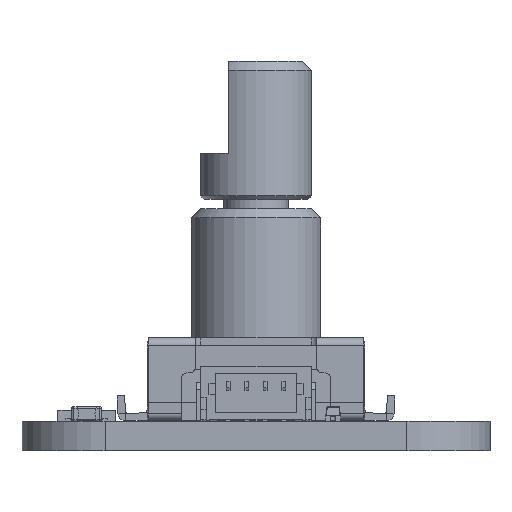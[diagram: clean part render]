
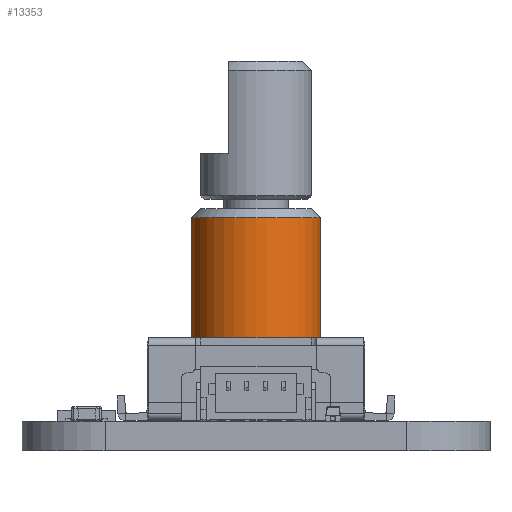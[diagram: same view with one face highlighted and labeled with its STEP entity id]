
A CAD part, left-side view. The second image highlights one B-rep face of the part: STEP entity #13353.
In plain terms, the highlighted cylindrical face has radius 3.5 mm (diameter 7 mm), a partial arc.
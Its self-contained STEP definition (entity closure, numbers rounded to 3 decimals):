
#13082 = VERTEX_POINT('',#13083);
#13083 = CARTESIAN_POINT('',(3.5,1.7,0.));
#13084 = VERTEX_POINT('',#13085);
#13085 = CARTESIAN_POINT('',(-3.5,1.7,0.));
#13092 = EDGE_CURVE('',#13084,#13082,#13093,.T.);
#13093 = CIRCLE('',#13094,3.5);
#13094 = AXIS2_PLACEMENT_3D('',#13095,#13096,#13097);
#13095 = CARTESIAN_POINT('',(0.,1.7,0.));
#13096 = DIRECTION('',(0.,1.,0.));
#13097 = DIRECTION('',(-1.,0.,0.));
#13182 = EDGE_CURVE('',#13183,#13082,#13185,.T.);
#13183 = VERTEX_POINT('',#13184);
#13184 = CARTESIAN_POINT('',(3.5,8.2,0.));
#13185 = LINE('',#13186,#13187);
#13186 = CARTESIAN_POINT('',(3.5,8.2,0.));
#13187 = VECTOR('',#13188,1.);
#13188 = DIRECTION('',(0.,-1.,0.));
#13191 = EDGE_CURVE('',#13192,#13084,#13194,.T.);
#13192 = VERTEX_POINT('',#13193);
#13193 = CARTESIAN_POINT('',(-3.5,8.2,0.));
#13194 = LINE('',#13195,#13196);
#13195 = CARTESIAN_POINT('',(-3.5,8.2,0.));
#13196 = VECTOR('',#13197,1.);
#13197 = DIRECTION('',(0.,-1.,0.));
#13330 = EDGE_CURVE('',#13331,#13192,#13333,.T.);
#13331 = VERTEX_POINT('',#13332);
#13332 = CARTESIAN_POINT('',(0.,8.2,3.5));
#13333 = CIRCLE('',#13334,3.5);
#13334 = AXIS2_PLACEMENT_3D('',#13335,#13336,#13337);
#13335 = CARTESIAN_POINT('',(0.,8.2,0.));
#13336 = DIRECTION('',(0.,-1.,0.));
#13337 = DIRECTION('',(0.,0.,1.));
#13339 = EDGE_CURVE('',#13183,#13331,#13340,.T.);
#13340 = CIRCLE('',#13341,3.5);
#13341 = AXIS2_PLACEMENT_3D('',#13342,#13343,#13344);
#13342 = CARTESIAN_POINT('',(0.,8.2,0.));
#13343 = DIRECTION('',(0.,-1.,0.));
#13344 = DIRECTION('',(1.,0.,0.));
#13353 = ADVANCED_FACE('',(#13354),#13361,.T.);
#13354 = FACE_BOUND('',#13355,.T.);
#13355 = EDGE_LOOP('',(#13356,#13357,#13358,#13359,#13360));
#13356 = ORIENTED_EDGE('',*,*,#13191,.T.);
#13357 = ORIENTED_EDGE('',*,*,#13092,.T.);
#13358 = ORIENTED_EDGE('',*,*,#13182,.F.);
#13359 = ORIENTED_EDGE('',*,*,#13339,.T.);
#13360 = ORIENTED_EDGE('',*,*,#13330,.T.);
#13361 = CYLINDRICAL_SURFACE('',#13362,3.5);
#13362 = AXIS2_PLACEMENT_3D('',#13363,#13364,#13365);
#13363 = CARTESIAN_POINT('',(0.,1.7,0.));
#13364 = DIRECTION('',(0.,1.,0.));
#13365 = DIRECTION('',(1.,0.,0.));
